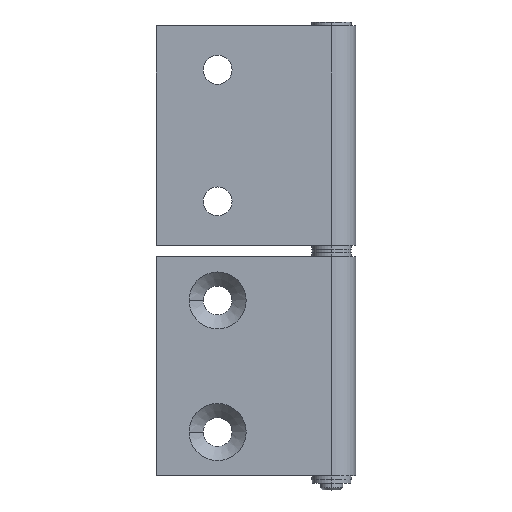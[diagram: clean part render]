
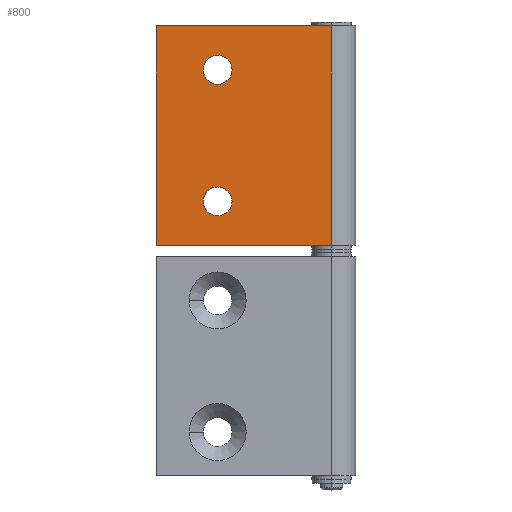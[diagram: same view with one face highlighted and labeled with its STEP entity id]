
A CAD part, top view. The second image highlights one B-rep face of the part: STEP entity #800.
In plain terms, the highlighted planar face has unit normal (0, 0, 1).
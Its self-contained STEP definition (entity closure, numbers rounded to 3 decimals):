
#64 = ORIENTED_EDGE ( 'NONE', *, *, #1542, .F. ) ;
#65 = EDGE_CURVE ( 'NONE', #1340, #267, #1347, .T. ) ;
#87 = VERTEX_POINT ( 'NONE', #1585 ) ;
#102 = VECTOR ( 'NONE', #1602, 1000. ) ;
#130 = LINE ( 'NONE', #1476, #1373 ) ;
#150 = FACE_OUTER_BOUND ( 'NONE', #1386, .T. ) ;
#181 = EDGE_CURVE ( 'NONE', #826, #1082, #130, .T. ) ;
#221 = CARTESIAN_POINT ( 'NONE',  ( 0., 0., 5.5 ) ) ;
#243 = ORIENTED_EDGE ( 'NONE', *, *, #713, .F. ) ;
#244 = CIRCLE ( 'NONE', #1124, 3.3 ) ;
#267 = VERTEX_POINT ( 'NONE', #1128 ) ;
#305 = VECTOR ( 'NONE', #798, 1000. ) ;
#338 = EDGE_CURVE ( 'NONE', #267, #1340, #244, .T. ) ;
#349 = AXIS2_PLACEMENT_3D ( 'NONE', #1593, #1023, #1441 ) ;
#356 = AXIS2_PLACEMENT_3D ( 'NONE', #938, #1513, #421 ) ;
#396 = DIRECTION ( 'NONE',  ( -1., 0., 0. ) ) ;
#399 = CARTESIAN_POINT ( 'NONE',  ( 0., 0.9, 5.5 ) ) ;
#401 = LINE ( 'NONE', #221, #102 ) ;
#421 = DIRECTION ( 'NONE',  ( -1., 0., 0. ) ) ;
#495 = AXIS2_PLACEMENT_3D ( 'NONE', #1720, #902, #1194 ) ;
#504 = CARTESIAN_POINT ( 'NONE',  ( -40., 50.9, 5.5 ) ) ;
#508 = CARTESIAN_POINT ( 'NONE',  ( -26., 10.9, 5.5 ) ) ;
#524 = DIRECTION ( 'NONE',  ( 0., 0., 1. ) ) ;
#535 = DIRECTION ( 'NONE',  ( 0., 0., 1. ) ) ;
#544 = PLANE ( 'NONE',  #356 ) ;
#664 = DIRECTION ( 'NONE',  ( -1., 0., 0. ) ) ;
#700 = EDGE_LOOP ( 'NONE', ( #243, #1244 ) ) ;
#704 = ORIENTED_EDGE ( 'NONE', *, *, #1226, .F. ) ;
#713 = EDGE_CURVE ( 'NONE', #1248, #87, #1446, .T. ) ;
#798 = DIRECTION ( 'NONE',  ( 1., 0., 0. ) ) ;
#800 = ADVANCED_FACE ( 'NONE', ( #150, #995, #893 ), #544, .F. ) ;
#805 = ORIENTED_EDGE ( 'NONE', *, *, #338, .F. ) ;
#826 = VERTEX_POINT ( 'NONE', #399 ) ;
#881 = CARTESIAN_POINT ( 'NONE',  ( -40., 0., 5.5 ) ) ;
#893 = FACE_BOUND ( 'NONE', #1282, .T. ) ;
#902 = DIRECTION ( 'NONE',  ( 0., 0., 1. ) ) ;
#904 = CARTESIAN_POINT ( 'NONE',  ( -40., 0.9, 5.5 ) ) ;
#937 = CARTESIAN_POINT ( 'NONE',  ( 0., 50.9, 5.5 ) ) ;
#938 = CARTESIAN_POINT ( 'NONE',  ( 0., 0., 5.5 ) ) ;
#964 = CARTESIAN_POINT ( 'NONE',  ( -22.7, 40.9, 5.5 ) ) ;
#995 = FACE_BOUND ( 'NONE', #700, .T. ) ;
#1023 = DIRECTION ( 'NONE',  ( 0., 0., 1. ) ) ;
#1076 = EDGE_CURVE ( 'NONE', #87, #1248, #1218, .T. ) ;
#1082 = VERTEX_POINT ( 'NONE', #904 ) ;
#1108 = LINE ( 'NONE', #937, #305 ) ;
#1123 = ORIENTED_EDGE ( 'NONE', *, *, #65, .F. ) ;
#1124 = AXIS2_PLACEMENT_3D ( 'NONE', #1224, #535, #396 ) ;
#1128 = CARTESIAN_POINT ( 'NONE',  ( -29.3, 40.9, 5.5 ) ) ;
#1129 = LINE ( 'NONE', #881, #1439 ) ;
#1157 = CARTESIAN_POINT ( 'NONE',  ( 0., 50.9, 5.5 ) ) ;
#1177 = VERTEX_POINT ( 'NONE', #504 ) ;
#1194 = DIRECTION ( 'NONE',  ( -1., 0., 0. ) ) ;
#1218 = CIRCLE ( 'NONE', #349, 3.3 ) ;
#1224 = CARTESIAN_POINT ( 'NONE',  ( -26., 40.9, 5.5 ) ) ;
#1226 = EDGE_CURVE ( 'NONE', #1177, #1617, #1108, .T. ) ;
#1244 = ORIENTED_EDGE ( 'NONE', *, *, #1076, .F. ) ;
#1245 = ORIENTED_EDGE ( 'NONE', *, *, #1629, .F. ) ;
#1248 = VERTEX_POINT ( 'NONE', #1478 ) ;
#1282 = EDGE_LOOP ( 'NONE', ( #805, #1123 ) ) ;
#1293 = ORIENTED_EDGE ( 'NONE', *, *, #181, .F. ) ;
#1340 = VERTEX_POINT ( 'NONE', #964 ) ;
#1347 = CIRCLE ( 'NONE', #495, 3.3 ) ;
#1373 = VECTOR ( 'NONE', #664, 1000. ) ;
#1386 = EDGE_LOOP ( 'NONE', ( #1245, #704, #64, #1293 ) ) ;
#1439 = VECTOR ( 'NONE', #1693, 1000. ) ;
#1441 = DIRECTION ( 'NONE',  ( -1., 0., 0. ) ) ;
#1446 = CIRCLE ( 'NONE', #1450, 3.3 ) ;
#1450 = AXIS2_PLACEMENT_3D ( 'NONE', #508, #524, #1481 ) ;
#1476 = CARTESIAN_POINT ( 'NONE',  ( 0., 0.9, 5.5 ) ) ;
#1478 = CARTESIAN_POINT ( 'NONE',  ( -29.3, 10.9, 5.5 ) ) ;
#1481 = DIRECTION ( 'NONE',  ( -1., 0., 0. ) ) ;
#1513 = DIRECTION ( 'NONE',  ( 0., 0., -1. ) ) ;
#1542 = EDGE_CURVE ( 'NONE', #1082, #1177, #1129, .T. ) ;
#1585 = CARTESIAN_POINT ( 'NONE',  ( -22.7, 10.9, 5.5 ) ) ;
#1593 = CARTESIAN_POINT ( 'NONE',  ( -26., 10.9, 5.5 ) ) ;
#1602 = DIRECTION ( 'NONE',  ( 0., -1., 0. ) ) ;
#1617 = VERTEX_POINT ( 'NONE', #1157 ) ;
#1629 = EDGE_CURVE ( 'NONE', #1617, #826, #401, .T. ) ;
#1693 = DIRECTION ( 'NONE',  ( 0., 1., 0. ) ) ;
#1720 = CARTESIAN_POINT ( 'NONE',  ( -26., 40.9, 5.5 ) ) ;
